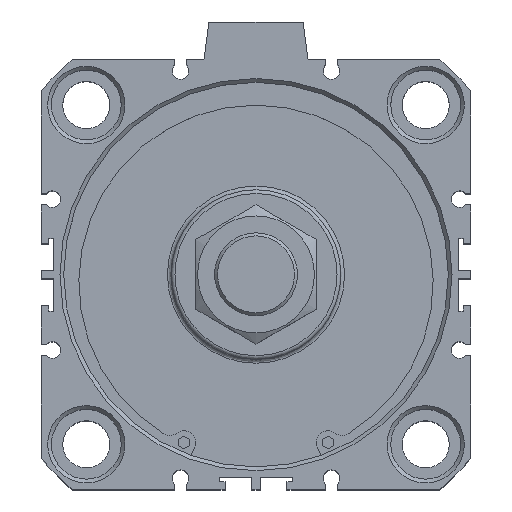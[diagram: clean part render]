
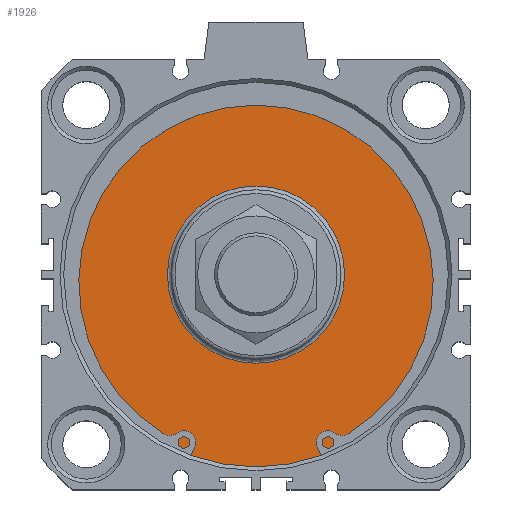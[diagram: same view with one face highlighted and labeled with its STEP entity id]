
A CAD part, top view. The second image highlights one B-rep face of the part: STEP entity #1926.
In plain terms, the highlighted planar face has unit normal (0, 0, 1).
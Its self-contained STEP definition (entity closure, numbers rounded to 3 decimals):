
#1875=CARTESIAN_POINT('',(-3.11,25.175,67.6));
#1876=VERTEX_POINT('',#1875);
#1877=CARTESIAN_POINT('',(-3.11,1.675,67.6));
#1878=DIRECTION('',(0.0,0.0,1.0));
#1879=DIRECTION('',(0.0,-1.0,0.0));
#1880=AXIS2_PLACEMENT_3D('',#1877,#1878,#1879);
#1881=CIRCLE('',#1880,23.5);
#1882=EDGE_CURVE('',#1876,#1876,#1881,.T.);
#1907=CARTESIAN_POINT('',(-3.11,38.425,67.6));
#1908=DIRECTION('',(0.0,0.0,1.0));
#1909=DIRECTION('',(1.0,0.0,0.0));
#1910=AXIS2_PLACEMENT_3D('',#1907,#1908,#1909);
#1911=PLANE('',#1910);
#1912=CARTESIAN_POINT('',(-3.11,52.675,67.6));
#1913=VERTEX_POINT('',#1912);
#1914=CARTESIAN_POINT('',(-3.11,1.675,67.6));
#1915=DIRECTION('',(0.0,0.0,-1.0));
#1916=DIRECTION('',(0.0,1.0,0.0));
#1917=AXIS2_PLACEMENT_3D('',#1914,#1915,#1916);
#1918=CIRCLE('',#1917,51.0);
#1919=EDGE_CURVE('',#1913,#1913,#1918,.T.);
#1920=ORIENTED_EDGE('',*,*,#1919,.F.);
#1921=EDGE_LOOP('',(#1920));
#1922=FACE_OUTER_BOUND('',#1921,.T.);
#1923=ORIENTED_EDGE('',*,*,#1882,.F.);
#1924=EDGE_LOOP('',(#1923));
#1925=FACE_BOUND('',#1924,.T.);
#1926=ADVANCED_FACE('',(#1922,#1925),#1911,.T.);
